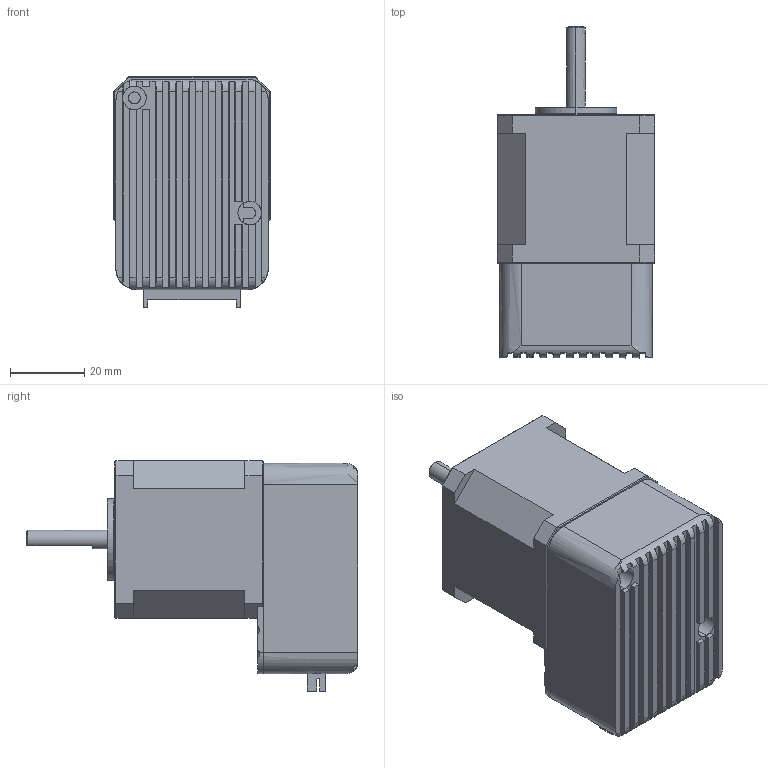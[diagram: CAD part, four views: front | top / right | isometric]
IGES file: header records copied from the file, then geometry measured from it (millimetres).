
Start section: SolidWorks IGES file using analytic representation for surfaces
Global section: file name: C:\Users\IEUser\Dropbox\Arcus\Project #23 DMX Drawings\DMX-K-SA-17\CSu files\DMX-K-SA-17-2.IGS; native system: SolidWorks 2008; preprocessor: SolidWorks 2008; author: IEUser; date: 140127.211419; units: millimetre
Bounding box: 42.3 x 89.28 x 61.99 mm (x, y, z)
Surface area: 28831.5 mm2 (no closed solid volume)
Topology: 0 solids, 0 shells, 1018 faces, 7417 edges, 7401 vertices
Faces by surface type: bspline 830, revolution 188
